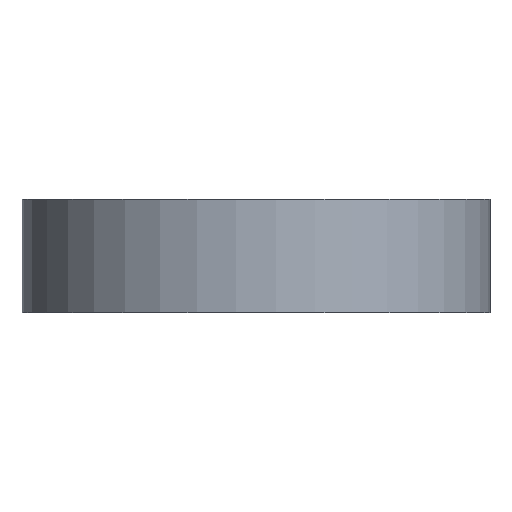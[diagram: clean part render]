
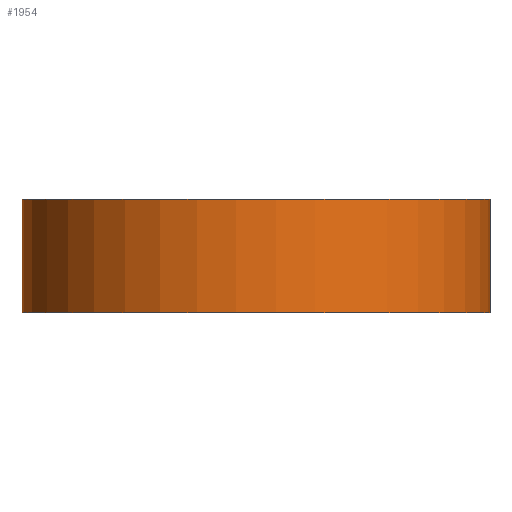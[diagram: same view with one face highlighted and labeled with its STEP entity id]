
A CAD part, left-side view. The second image highlights one B-rep face of the part: STEP entity #1954.
In plain terms, the highlighted cylindrical face has radius 31 mm (diameter 62 mm), a partial arc.
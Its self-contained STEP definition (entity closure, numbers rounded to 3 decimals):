
#66 = VERTEX_POINT ( 'NONE', #613 ) ;
#97 = EDGE_CURVE ( 'NONE', #188, #66, #739, .T. ) ;
#188 = VERTEX_POINT ( 'NONE', #894 ) ;
#208 = EDGE_CURVE ( 'NONE', #223, #209, #1092, .T. ) ;
#209 = VERTEX_POINT ( 'NONE', #1072 ) ;
#223 = VERTEX_POINT ( 'NONE', #1064 ) ;
#613 = CARTESIAN_POINT ( 'NONE',  ( 6.433, 30.325, 7.5 ) ) ;
#730 = DIRECTION ( 'NONE',  ( 1., 0., 0. ) ) ;
#731 = DIRECTION ( 'NONE',  ( 0., 0., -1. ) ) ;
#732 = CARTESIAN_POINT ( 'NONE',  ( 0., 0., 7.5 ) ) ;
#733 = AXIS2_PLACEMENT_3D ( 'NONE', #732, #731, #730 ) ;
#739 = CIRCLE ( 'NONE', #733, 31. ) ;
#894 = CARTESIAN_POINT ( 'NONE',  ( 6.433, -30.325, 7.5 ) ) ;
#972 = CARTESIAN_POINT ( 'NONE',  ( 0., 0., -7.5 ) ) ;
#1064 = CARTESIAN_POINT ( 'NONE',  ( 6.433, -30.325, -7.5 ) ) ;
#1072 = CARTESIAN_POINT ( 'NONE',  ( 6.433, 30.325, -7.5 ) ) ;
#1089 = DIRECTION ( 'NONE',  ( 1., 0., 0. ) ) ;
#1090 = DIRECTION ( 'NONE',  ( 0., 0., -1. ) ) ;
#1091 = AXIS2_PLACEMENT_3D ( 'NONE', #972, #1090, #1089 ) ;
#1092 = CIRCLE ( 'NONE', #1091, 31. ) ;
#1491 = CARTESIAN_POINT ( 'NONE',  ( 6.433, 30.325, -7.5 ) ) ;
#1554 = DIRECTION ( 'NONE',  ( 0., 0., 1. ) ) ;
#1555 = VECTOR ( 'NONE', #1554, 1000. ) ;
#1556 = CARTESIAN_POINT ( 'NONE',  ( 6.433, -30.325, -7.5 ) ) ;
#1561 = LINE ( 'NONE', #1556, #1555 ) ;
#1578 = DIRECTION ( 'NONE',  ( 0., 0., 1. ) ) ;
#1579 = VECTOR ( 'NONE', #1578, 1000. ) ;
#1580 = LINE ( 'NONE', #1491, #1579 ) ;
#1635 = AXIS2_PLACEMENT_3D ( 'NONE', #1636, #1655, #1654 ) ;
#1636 = CARTESIAN_POINT ( 'NONE',  ( 0., 0., -7.5 ) ) ;
#1641 = FACE_OUTER_BOUND ( 'NONE', #1951, .T. ) ;
#1654 = DIRECTION ( 'NONE',  ( 1., 0., 0. ) ) ;
#1655 = DIRECTION ( 'NONE',  ( 0., 0., 1. ) ) ;
#1663 = CYLINDRICAL_SURFACE ( 'NONE', #1635, 31. ) ;
#1829 = ORIENTED_EDGE ( 'NONE', *, *, #1991, .F. ) ;
#1951 = EDGE_LOOP ( 'NONE', ( #1976, #1829, #1959, #1963 ) ) ;
#1954 = ADVANCED_FACE ( 'NONE', ( #1641 ), #1663, .T. ) ;
#1959 = ORIENTED_EDGE ( 'NONE', *, *, #208, .F. ) ;
#1963 = ORIENTED_EDGE ( 'NONE', *, *, #1967, .T. ) ;
#1967 = EDGE_CURVE ( 'NONE', #223, #188, #1561, .T. ) ;
#1976 = ORIENTED_EDGE ( 'NONE', *, *, #97, .T. ) ;
#1991 = EDGE_CURVE ( 'NONE', #209, #66, #1580, .T. ) ;
